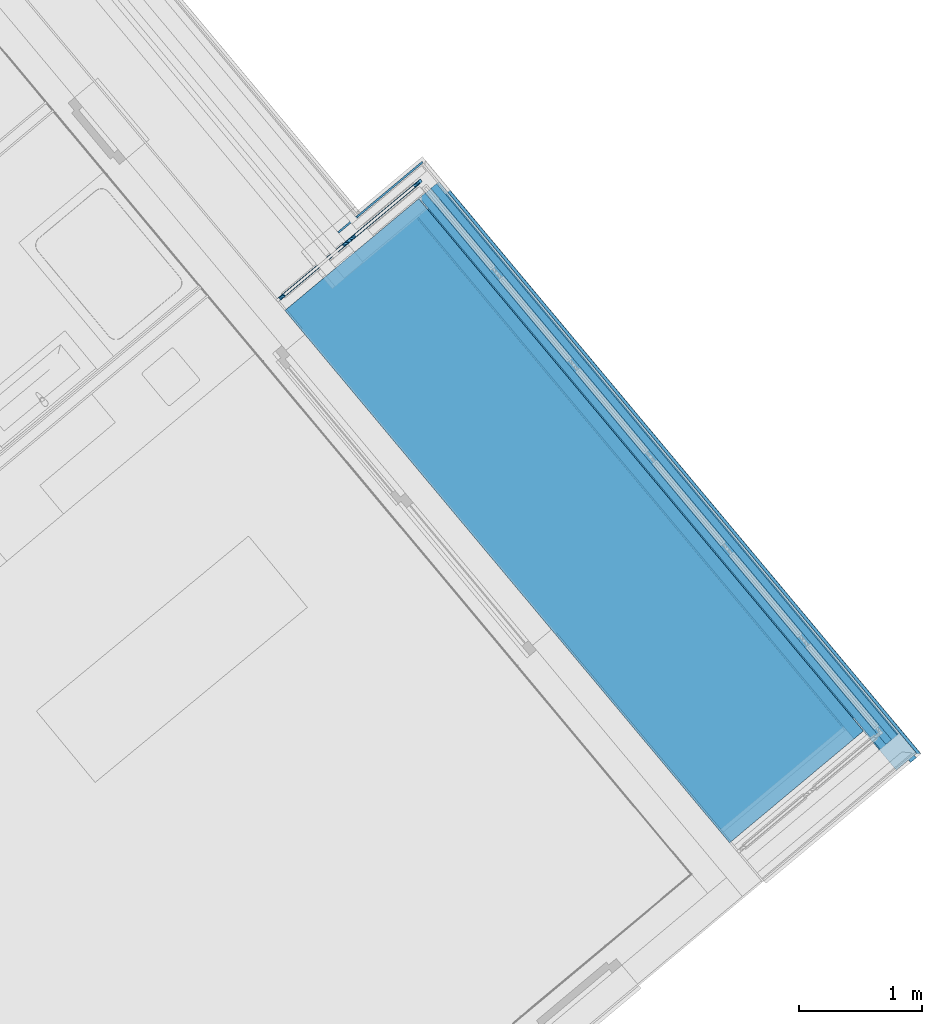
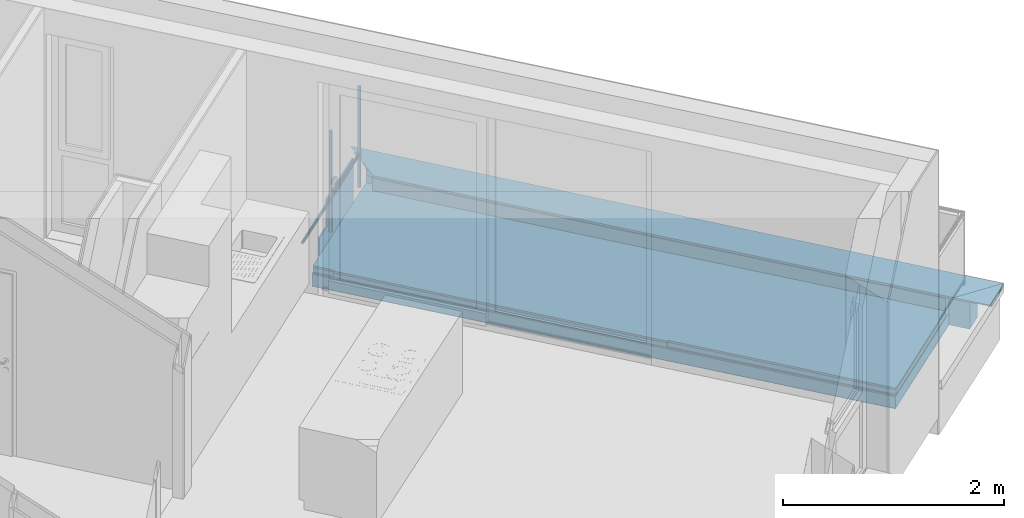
# One storey, part 38 of 58: 15 building element parts, 4 elements without a shape of their own.
"""IFC4 building model written with IfcOpenShell, lengths in metres."""

from ifc_helpers import new_model, entity, si_unit, converted_unit, derived_unit, direction, frame, origin_with_axes, place, context, subcontext, project, spatial, polygons, material, type_object, element, aggregate, save


model = new_model("IFC4")

# Units and contexts
model_context = context("Model", 3, precision=1e-05, world=origin_with_axes(), true_north=direction((0.0, 1.0)))
body_context = subcontext(model_context, "Body", "Model", "MODEL_VIEW")
ifc_project = project(units=[si_unit("LENGTHUNIT", "METRE"), si_unit("AREAUNIT", "SQUARE_METRE"), si_unit("VOLUMEUNIT", "CUBIC_METRE"), converted_unit("PLANEANGLEUNIT", "DEGREE", entity("IfcPlaneAngleMeasure", 0.0174532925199), si_unit("PLANEANGLEUNIT", "RADIAN"), dimensions=[0, 0, 0, 0, 0, 0, 0]), converted_unit("TIMEUNIT", "Year", entity("IfcTimeMeasure", 31556926.0), si_unit("TIMEUNIT", "SECOND"), dimensions=[0, 0, 1, 0, 0, 0, 0]), si_unit("MASSUNIT", "GRAM", prefix="KILO"), si_unit("THERMODYNAMICTEMPERATUREUNIT", "DEGREE_CELSIUS"), si_unit("LUMINOUSINTENSITYUNIT", "LUMEN"), si_unit("ENERGYUNIT", "JOULE", prefix="MEGA"), derived_unit("THERMALCONDUCTANCEUNIT", [(si_unit("POWERUNIT", "WATT"), 1), (si_unit("LENGTHUNIT", "METRE"), -1), (si_unit("THERMODYNAMICTEMPERATUREUNIT", "KELVIN"), -1)]), derived_unit("SPECIFICHEATCAPACITYUNIT", [(si_unit("ENERGYUNIT", "JOULE"), 1), (si_unit("MASSUNIT", "GRAM", prefix="KILO"), -1), (si_unit("THERMODYNAMICTEMPERATUREUNIT", "KELVIN"), -1)]), derived_unit("MASSDENSITYUNIT", [(si_unit("MASSUNIT", "GRAM", prefix="KILO"), 1), (si_unit("VOLUMEUNIT", "CUBIC_METRE"), -1)])], contexts=[model_context])

# Site, building, storey
site_placement = place(None, frame((-0.00153261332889, -0.00661245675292, 0.0), z_axis=(0.0, 0.0, 1.0), x_axis=(1.0, 0.0, 0.0)))
site = spatial("IfcSite", under=ifc_project, at=site_placement, Name="Site", CompositionType="ELEMENT")
building_placement = place(site_placement, origin_with_axes())
building = spatial("IfcBuilding", under=site, at=building_placement, Name="Building", CompositionType="ELEMENT")
storey_placement = place(building_placement, frame((0.0, 0.0, 5.7), z_axis=(0.0, 0.0, 1.0), x_axis=(1.0, 0.0, 0.0)))
storey = spatial("IfcBuildingStorey", under=building, at=storey_placement, Name="DG1", CompositionType="ELEMENT", Elevation=5.7)

# Wall, building element part
wall_type = type_object("IfcWallType", Name="Bauteil - Attika Balkon 356 x 610", PredefinedType="NOTDEFINED")
wall_1_placement = place(storey_placement, frame((10.0769189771, 25.3809042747, -0.2), z_axis=(0.0, 0.0, 1.0), x_axis=(0.767365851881, 0.641209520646, 0.0)))
wall_1 = element("IfcWall", 1, at=wall_1_placement, inside=storey, type_object=wall_type, Name="Wand-003", PredefinedType="NOTDEFINED")
ifc_material_1 = material(Name="Zementputz")
building_element_part_1_placement = place(wall_1_placement, origin_with_axes())
building_element_part_1 = element("IfcBuildingElementPart", 2, at=building_element_part_1_placement, material=ifc_material_1, Name="Zementputz", PredefinedType="NOTDEFINED", context=body_context, shape_type="Tessellation", body=[
    polygons([(0.19999996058, 0.214999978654, 0.499999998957), (0.19999996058, 0.199999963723, 0.499999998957), (0.89192992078, 0.199999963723, 0.499999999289), (0.89192998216, 0.214999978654, 0.499999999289), (0.19999996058, 0.199999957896, 0.498915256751), (0.19999996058, 0.214999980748, 0.498915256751), (0.19999996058, 0.199999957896, 0.498822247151), (0.19999996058, 0.199999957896, 0.496604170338), (0.19999996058, 0.199999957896, 0.49100648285), (0.19999996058, 0.199999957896, 0.488695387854), (0.19999996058, 0.199999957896, 0.335), (0.19999996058, 0.199999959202, 0.2), (0.89192992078, 0.199999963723, 0.200000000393), (0.891929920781, 0.199999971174, 0.0), (0.89192998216, 0.214999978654, 0.0), (0.0, 0.214999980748, 0.0), (2.39911202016e-10, 0.214999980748, 0.2), (0.19999996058, 0.214999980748, 0.2), (0.19999996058, 0.214999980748, 0.335), (0.19999996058, 0.214999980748, 0.488695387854), (0.19999996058, 0.214999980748, 0.49100648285), (0.19999996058, 0.214999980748, 0.496604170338), (0.19999996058, 0.214999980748, 0.498822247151), (2.39907649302e-10, 0.199999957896, 0.2), (0.0, 0.199999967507, 0.0)], [[[1, 2, 3, 4]], [[5, 2, 1, 6]], [[2, 5, 7, 8, 9, 10, 11, 12, 13, 3]], [[4, 3, 13, 14, 15]], [[6, 1, 4, 15, 16, 17, 18, 19, 20, 21, 22, 23]], [[5, 6, 23, 7]], [[7, 23, 22, 8]], [[8, 22, 21, 9]], [[9, 21, 20, 10]], [[10, 20, 19, 11]], [[11, 19, 18, 12]], [[12, 24, 25, 14, 13]], [[14, 25, 16, 15]], [[24, 17, 16, 25]], [[24, 12, 18, 17]]], closed=True),
])
aggregate(wall_1, [building_element_part_1])

# Wall, building element parts
wall_2_placement = place(storey_placement, frame((10.5963712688, 25.814957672, -0.2), z_axis=(0.0, 0.0, 1.0), x_axis=(0.641206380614, -0.767368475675, 0.0)))
wall_2 = element("IfcWall", 3, at=wall_2_placement, inside=storey, type_object=wall_type, Name="Wand-004", PredefinedType="NOTDEFINED")
ifc_material_2 = material(Name="Vollholz")
building_element_part_2_placement = place(wall_2_placement, origin_with_axes())
building_element_part_2 = element("IfcBuildingElementPart", 4, at=building_element_part_2_placement, material=ifc_material_2, Name="Vollholz", PredefinedType="NOTDEFINED", context=body_context, shape_type="Tessellation", body=[
    polygons([(6.01965327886, 0.189984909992, 0.586106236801), (6.01966449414, 0.189996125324, 0.584015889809), (6.01967573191, 0.190007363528, 0.581921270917), (6.06981943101, 0.190007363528, 0.581921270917), (6.07116862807, 0.190007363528, 0.581921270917), (6.07116862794, 0.190039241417, 0.575979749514), (6.06981904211, 0.190039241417, 0.575979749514), (6.01970760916, 0.190039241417, 0.575979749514), (6.01970977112, 0.190041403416, 0.575576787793), (6.01971887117, 0.190050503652, 0.573880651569), (6.01975070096, 0.190082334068, 0.567947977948), (6.01979334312, 0.190124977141, 0.560000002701), (-0.130125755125, 0.190124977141, 0.560000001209), (-0.130125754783, 0.190041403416, 0.575576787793), (-0.130125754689, 0.190018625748, 0.57982217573), (-0.130125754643, 0.190007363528, 0.581921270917), (-0.130125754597, 0.189996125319, 0.584015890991), (-0.18998568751, 0.189984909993, 0.586106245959), (6.01966473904, 0.130124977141, 0.584015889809), (6.01967597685, 0.130124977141, 0.581921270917), (6.06981967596, 0.130124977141, 0.581921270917), (6.07116887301, 0.130124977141, 0.581921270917), (6.07116887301, 0.130124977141, 0.575979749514), (6.06981928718, 0.130124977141, 0.575979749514), (6.01970785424, 0.130124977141, 0.575979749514), (6.0197100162, 0.130124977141, 0.575576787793), (6.01971911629, 0.130124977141, 0.573880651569), (6.01975094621, 0.130124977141, 0.567947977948), (6.01979358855, 0.130124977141, 0.560000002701), (-0.130125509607, 0.130124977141, 0.560000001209), (-0.130125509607, 0.130124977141, 0.575576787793), (-0.130125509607, 0.130124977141, 0.57982217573), (-0.130125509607, 0.130124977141, 0.581921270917), (-0.130125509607, 0.130124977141, 0.584015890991)], [[[1, 2, 3, 4, 5, 6, 7, 8, 9, 10, 11, 12, 13, 14, 15, 16, 17, 18]], [[19, 2, 1]], [[2, 19, 20, 3]], [[20, 21, 4, 3]], [[5, 4, 21, 22]], [[23, 6, 5, 22]], [[23, 24, 7, 6]], [[25, 8, 7, 24]], [[26, 9, 8, 25]], [[10, 9, 26, 27]], [[28, 11, 10, 27]], [[11, 28, 29, 12]], [[30, 13, 12, 29]], [[14, 13, 30, 31]], [[14, 31, 32, 15]], [[16, 15, 32, 33]], [[16, 33, 34, 17]], [[17, 34, 18]], [[19, 1, 18, 34]], [[25, 24, 23, 22, 21, 20, 19, 34, 33, 32, 31, 30, 29, 28, 27, 26]]], closed=True),
])
ifc_material_3 = material(Name="Brettschichtholz")
building_element_part_3_placement = place(wall_2_placement, origin_with_axes())
building_element_part_3 = element("IfcBuildingElementPart", 5, at=building_element_part_3_placement, material=ifc_material_3, Name="Brettschichtholz", PredefinedType="NOTDEFINED", context=body_context, shape_type="Tessellation", body=[
    polygons([(6.04466834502, 0.190124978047, 0.560000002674), (6.04466824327, 0.214999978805, 0.560000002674), (-8.79832345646e-07, 0.214999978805, 0.560000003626), (-7.78044960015e-07, 0.190124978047, 0.560000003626), (6.04466824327, 0.214999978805, 0.519273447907), (6.04466859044, 0.130124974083, 0.560000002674), (6.0446688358, 0.0701429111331, 0.560000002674), (6.04466908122, 0.010142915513, 0.560000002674), (6.04466912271, 0.0, 0.560000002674), (6.04466912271, 0.0, 0.519273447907), (6.04466824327, 0.214999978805, 0.519224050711), (6.04466824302, 0.214999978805, 0.511410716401), (6.04466824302, 0.214999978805, 0.51136132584), (6.04466824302, 0.214999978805, 0.509099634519), (6.04466824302, 0.214999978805, 0.509050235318), (6.04466824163, 0.214999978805, 0.50000001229), (-8.79832347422e-07, 0.214999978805, 0.499999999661), (-8.79832347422e-07, 0.214999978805, 0.506731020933), (-8.79832347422e-07, 0.214999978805, 0.509099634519), (-8.79832347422e-07, 0.214999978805, 0.511410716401), (-8.79832347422e-07, 0.214999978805, 0.519273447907), (0.0, 0.0, 0.519273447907), (0.0, 0.0, 0.560000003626), (-4.15664587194e-08, 0.010142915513, 0.560000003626), (-2.87083741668e-07, 0.0701429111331, 0.560000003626), (-5.32527650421e-07, 0.130124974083, 0.560000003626), (0.0, 0.0, 0.511410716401), (0.0, 0.0, 0.509099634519), (0.0, 0.0, 0.506731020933), (0.0, 0.0, 0.499999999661), (6.04466912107, 0.0, 0.50000001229), (6.04466912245, 0.0, 0.509050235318), (6.04466912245, 0.0, 0.509099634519), (6.04466912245, 0.0, 0.51136132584), (6.04466912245, 0.0, 0.511410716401), (6.04466912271, 0.0, 0.519224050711)], [[[1, 2, 3, 4]], [[5, 2, 1, 6, 7, 8, 9, 10]], [[2, 5, 11, 12, 13, 14, 15, 16, 17, 18, 19, 20, 21, 3]], [[4, 3, 21, 22, 23, 24, 25, 26]], [[6, 1, 4, 26]], [[7, 6, 26, 25]], [[8, 7, 25, 24]], [[9, 8, 24, 23]], [[10, 9, 23, 22, 27, 28, 29, 30, 31, 32, 33, 34, 35, 36]], [[5, 10, 36, 11]], [[11, 36, 35, 12]], [[12, 35, 34, 13]], [[13, 34, 33, 14]], [[14, 33, 32, 15]], [[15, 32, 31, 16]], [[30, 17, 16, 31]], [[29, 18, 17, 30]], [[28, 19, 18, 29]], [[27, 20, 19, 28]], [[22, 21, 20, 27]]], closed=True),
])
ifc_material_4 = material(Name="Stahlbeton")
building_element_part_4_placement = place(wall_2_placement, origin_with_axes())
building_element_part_4 = element("IfcBuildingElementPart", 6, at=building_element_part_4_placement, material=ifc_material_4, Name="Stahlbeton", PredefinedType="NOTDEFINED", context=body_context, shape_type="Tessellation", body=[
    polygons([(5.82966915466, 1.0529745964e-09, 0.500000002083), (5.82966833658, 0.19999996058, 0.500000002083), (-8.19443810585e-07, 0.19999996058, 0.500000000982), (-1.0529745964e-09, 1.0529745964e-09, 0.500000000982), (5.82966833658, 0.19999996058, 0.498915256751), (5.82966915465, 1.0529745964e-09, 0.498915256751), (5.82966833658, 0.19999996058, 0.498822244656), (5.82966833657, 0.19999996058, 0.496604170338), (5.82966833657, 0.19999996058, 0.491006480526), (5.82966833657, 0.19999996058, 0.488695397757), (5.82966833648, 0.19999996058, 0.335), (5.82966833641, 0.19999996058, 0.200000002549), (-8.19443808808e-07, 0.19999996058, 0.2), (-8.19443812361e-07, 0.19999996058, 0.334999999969), (-8.19443812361e-07, 0.19999996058, 0.496604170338), (-8.19443812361e-07, 0.19999996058, 0.498915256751), (-1.0529745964e-09, 1.0529745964e-09, 0.498915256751), (-1.0529745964e-09, 1.0529745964e-09, 0.496604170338), (-1.0529745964e-09, 1.0529745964e-09, 0.334999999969), (5.82966915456, 1.0529745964e-09, 0.335), (5.82966915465, 1.0529745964e-09, 0.488695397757), (5.82966915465, 1.0529745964e-09, 0.491006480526), (5.82966915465, 1.0529745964e-09, 0.496604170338), (5.82966915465, 1.0529745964e-09, 0.498822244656), (5.82966915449, 1.0529745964e-09, 0.200000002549), (-1.0529745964e-09, 1.0529745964e-09, 0.2)], [[[1, 2, 3, 4]], [[5, 2, 1, 6]], [[2, 5, 7, 8, 9, 10, 11, 12, 13, 14, 15, 16, 3]], [[4, 3, 16, 17]], [[6, 1, 4, 17, 18, 19, 20, 21, 22, 23, 24]], [[5, 6, 24, 7]], [[7, 24, 23, 8]], [[8, 23, 22, 9]], [[9, 22, 21, 10]], [[10, 21, 20, 11]], [[11, 20, 25, 12]], [[12, 25, 26, 13]], [[19, 14, 13, 26]], [[18, 15, 14, 19]], [[17, 16, 15, 18]], [[25, 20, 19, 26]]], closed=True),
])
building_element_part_5_placement = place(wall_2_placement, origin_with_axes())
building_element_part_5 = element("IfcBuildingElementPart", 7, at=building_element_part_5_placement, material=ifc_material_2, Name="Vollholz", PredefinedType="NOTDEFINED", context=body_context, shape_type="Tessellation", body=[
    polygons([(6.01968773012, 0.0100326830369, 0.57982217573), (6.0196762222, 0.0701429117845, 0.581921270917), (-0.0701431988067, 0.0701429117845, 0.581921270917), (-0.0100327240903, 0.010032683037, 0.579822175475), (6.01968748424, 0.0701429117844, 0.57982217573), (6.01970809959, 0.0701429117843, 0.575979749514), (5.95979383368, 0.0701429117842, 0.575979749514), (5.72966885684, 0.0701429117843, 0.575979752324), (5.72966885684, 0.0701429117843, 0.575576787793), (5.72966885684, 0.0701429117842, 0.573880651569), (5.72966885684, 0.0701429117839, 0.567947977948), (5.72966885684, 0.0701429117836, 0.560000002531), (-0.0101431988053, 0.0701429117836, 0.560000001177), (-0.0100565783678, 0.0701429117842, 0.575576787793), (-0.0100329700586, 0.0701429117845, 0.579822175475), (6.01970834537, 0.0100540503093, 0.575979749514), (-0.0100563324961, 0.0100562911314, 0.575576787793), (-0.010142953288, 0.0101429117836, 0.560000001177), (5.72966910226, 0.0101429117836, 0.560000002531), (5.72966910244, 0.0100987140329, 0.567947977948), (5.72966910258, 0.0100657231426, 0.573880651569), (5.72966910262, 0.0100562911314, 0.575576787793), (5.72966910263, 0.0100540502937, 0.575979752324), (5.95979407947, 0.0100540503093, 0.575979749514)], [[[1, 2, 3, 4]], [[5, 2, 1]], [[2, 5, 6, 7, 8, 9, 10, 11, 12, 13, 14, 15, 3]], [[3, 15, 4]], [[16, 1, 4, 17, 18, 19, 20, 21, 22, 23, 24]], [[5, 1, 16, 6]], [[6, 16, 24, 7]], [[8, 7, 24, 23]], [[9, 8, 23, 22]], [[9, 22, 21, 10]], [[10, 21, 20, 11]], [[11, 20, 19, 12]], [[12, 19, 18, 13]], [[17, 14, 13, 18]], [[4, 15, 14, 17]]], closed=True),
])
ifc_material_5 = material(Name="EPS 1")
building_element_part_6_placement = place(wall_2_placement, origin_with_axes())
building_element_part_6 = element("IfcBuildingElementPart", 8, at=building_element_part_6_placement, material=ifc_material_5, Name="EPS 1", PredefinedType="NOTDEFINED", context=body_context, shape_type="Tessellation", body=[
    polygons([(5.62966955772, -0.0999999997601, 0.560000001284), (5.62966914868, 2.39911202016e-10, 0.560000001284), (0.0999999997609, 2.39907649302e-10, 0.560000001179), (0.100000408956, -0.0999999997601, 0.560000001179), (5.62966915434, 2.39914754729e-10, 0.519273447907), (5.62966956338, -0.0999999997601, 0.519273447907), (5.62966915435, 2.39914754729e-10, 0.519224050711), (5.62966915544, 2.39911202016e-10, 0.511410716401), (5.62966915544, 2.39914754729e-10, 0.51136132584), (5.62966915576, 2.39907649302e-10, 0.509099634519), (5.62966915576, 2.39911202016e-10, 0.509050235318), (5.62966915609, 2.39907649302e-10, 0.506731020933), (5.62966915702, 2.39928965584e-10, 0.500000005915), (5.62966915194, 2.39911202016e-10, 0.498915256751), (5.62966915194, 2.39911202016e-10, 0.498822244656), (5.62966915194, 2.39911202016e-10, 0.496604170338), (5.62966915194, 2.39911202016e-10, 0.491006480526), (5.62966915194, 2.39911202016e-10, 0.488695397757), (5.62966915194, 2.39911202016e-10, 0.334999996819), (0.0999999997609, 2.39911202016e-10, 0.334999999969), (0.0999999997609, 2.39911202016e-10, 0.496604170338), (0.0999999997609, 2.39911202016e-10, 0.498915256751), (0.0999999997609, 2.39911202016e-10, 0.499999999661), (0.0999999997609, 2.39911202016e-10, 0.506731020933), (0.0999999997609, 2.39911202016e-10, 0.509099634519), (0.0999999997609, 2.39911202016e-10, 0.511410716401), (0.0999999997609, 2.39911202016e-10, 0.519273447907), (0.100000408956, -0.0999999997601, 0.519273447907), (0.100000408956, -0.0999999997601, 0.511410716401), (0.100000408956, -0.0999999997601, 0.509099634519), (0.100000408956, -0.0999999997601, 0.506731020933), (0.100000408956, -0.0999999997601, 0.499999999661), (0.100000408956, -0.0999999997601, 0.498915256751), (0.100000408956, -0.0999999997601, 0.496604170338), (0.100000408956, -0.0999999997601, 0.334999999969), (5.62966956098, -0.0999999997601, 0.334999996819), (5.62966956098, -0.0999999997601, 0.488695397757), (5.62966956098, -0.0999999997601, 0.491006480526), (5.62966956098, -0.0999999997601, 0.496604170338), (5.62966956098, -0.0999999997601, 0.498822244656), (5.62966956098, -0.0999999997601, 0.498915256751), (5.62966956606, -0.0999999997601, 0.500000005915), (5.62966956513, -0.0999999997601, 0.506731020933), (5.6296695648, -0.0999999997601, 0.509050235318), (5.6296695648, -0.0999999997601, 0.509099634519), (5.62966956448, -0.0999999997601, 0.51136132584), (5.62966956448, -0.0999999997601, 0.511410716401), (5.62966956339, -0.0999999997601, 0.519224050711)], [[[1, 2, 3, 4]], [[5, 2, 1, 6]], [[2, 5, 7, 8, 9, 10, 11, 12, 13, 14, 15, 16, 17, 18, 19, 20, 21, 22, 23, 24, 25, 26, 27, 3]], [[4, 3, 27, 28]], [[6, 1, 4, 28, 29, 30, 31, 32, 33, 34, 35, 36, 37, 38, 39, 40, 41, 42, 43, 44, 45, 46, 47, 48]], [[5, 6, 48, 7]], [[7, 48, 47, 8]], [[8, 47, 46, 9]], [[9, 46, 45, 10]], [[10, 45, 44, 11]], [[11, 44, 43, 12]], [[12, 43, 42, 13]], [[13, 42, 41, 14]], [[14, 41, 40, 15]], [[15, 40, 39, 16]], [[16, 39, 38, 17]], [[17, 38, 37, 18]], [[18, 37, 36, 19]], [[19, 36, 35, 20]], [[34, 21, 20, 35]], [[33, 22, 21, 34]], [[32, 23, 22, 33]], [[31, 24, 23, 32]], [[30, 25, 24, 31]], [[29, 26, 25, 30]], [[28, 27, 26, 29]]], closed=True),
])
ifc_material_6 = material(Name="Holzwerkstoff")
building_element_part_7_placement = place(wall_2_placement, origin_with_axes())
building_element_part_7 = element("IfcBuildingElementPart", 9, at=building_element_part_7_placement, material=ifc_material_6, Name="Holzwerkstoff", PredefinedType="NOTDEFINED", context=body_context, shape_type="Tessellation", body=[
    polygons([(0.111834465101, -0.11183400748, 0.584015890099), (0.111907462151, -0.111907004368, 0.586106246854), (0.111906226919, 0.189984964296, 0.586106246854), (0.111833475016, 0.130124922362, 0.584015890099), (0.111761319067, -0.111760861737, 0.581921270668), (0.111688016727, -0.111687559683, 0.579822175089), (0.111539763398, -0.111539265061, 0.575576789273), (5.71813030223, -0.111539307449, 0.575576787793), (5.72966960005, -0.111553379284, 0.575979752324), (5.83970228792, -0.111687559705, 0.57982217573), (5.89981250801, -0.111760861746, 0.581921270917), (5.95979458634, -0.111834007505, 0.584015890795), (6.0196545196, -0.111907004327, 0.586106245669), (6.06966959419, -0.111967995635, 0.587852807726), (6.06966663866, -0.111970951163, 0.587937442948), (6.06939045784, -0.112247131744, 0.595846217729), (0.112247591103, -0.112247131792, 0.5958462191), (0.112246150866, 0.239720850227, 0.5958462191), (0.111967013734, 0.23999998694, 0.587852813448), (6.0196532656, 0.189984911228, 0.586106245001), (5.95979359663, 0.130124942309, 0.584015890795), (0.111760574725, 0.0701429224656, 0.581921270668), (0.111687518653, 0.01003274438, 0.579822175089), (5.83970179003, 0.010032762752, 0.57982217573), (5.72966955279, -0.0999999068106, 0.575979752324), (5.89981174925, 0.0701429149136, 0.581921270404), (6.0696681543, 0.23999998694, 0.587852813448), (6.06966519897, 0.239997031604, 0.587937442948), (6.06938901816, 0.239720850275, 0.595846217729), (-0.239277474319, 0.239276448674, 0.608570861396), (6.06894466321, 0.23927649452, 0.608570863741)], [[[1, 2, 3, 4]], [[5, 6, 7, 8, 9, 10, 11, 12, 13, 14, 15, 16, 17, 2, 1]], [[2, 17, 18, 19, 3]], [[4, 3, 20, 21]], [[5, 1, 4, 22]], [[6, 5, 22, 23]], [[7, 6, 23]], [[7, 23, 24, 25, 8]], [[9, 8, 25]], [[10, 9, 25, 24]], [[11, 10, 24, 26]], [[12, 11, 26, 21]], [[13, 12, 21, 20]], [[14, 13, 20, 27]], [[14, 27, 28, 15]], [[16, 15, 28, 29]], [[30, 17, 16, 31]], [[18, 17, 30]], [[19, 18, 30, 31, 29, 28, 27]], [[3, 19, 27, 20]], [[22, 4, 21, 26]], [[23, 22, 26, 24]], [[16, 29, 31]]], closed=True),
])
aggregate(wall_2, [building_element_part_2, building_element_part_3, building_element_part_4, building_element_part_5, building_element_part_6, building_element_part_7])

# Covering, building element parts
covering_type = type_object("IfcCoveringType", Name="Balkon vor Terrasse 220", PredefinedType="NOTDEFINED")
covering_placement = place(storey_placement, frame((13.1202359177, 20.5875383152, 0.0), z_axis=(0.0, 0.0, 1.0), x_axis=(1.0, 0.0, 0.0)))
covering = element("IfcCovering", 10, at=covering_placement, inside=storey, type_object=covering_type, Name="Decke-005", PredefinedType="NOTDEFINED")
ifc_material_7 = material(Name="Platten")
building_element_part_8_placement = place(covering_placement, origin_with_axes())
building_element_part_8 = element("IfcBuildingElementPart", 11, at=building_element_part_8_placement, material=ifc_material_7, Name="Platten", PredefinedType="NOTDEFINED", context=body_context, shape_type="Tessellation", body=[
    polygons([(-1.41438565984, 1.69266242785, 0.22), (-1.40287517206, 1.70228057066, 0.22), (0.0115104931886, 0.00961814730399, 0.22), (1.08591513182, 0.907388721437, 0.22), (-2.52386452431, 5.22741920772, 0.22), (-3.59828683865, 4.32963386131, 0.22), (-3.46756982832, 4.1731986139, 0.22), (-3.4790803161, 4.16358047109, 0.22), (-1.41438565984, 1.69266242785, 0.2), (-1.40287517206, 1.70228057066, 0.2), (0.0115104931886, 0.00961814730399, 0.2), (1.08591513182, 0.907388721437, 0.2), (-2.52386452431, 5.22741920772, 0.2), (-3.59828683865, 4.32963386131, 0.2), (-3.46756982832, 4.1731986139, 0.2), (-3.4790803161, 4.16358047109, 0.2)], [[[1, 2, 3, 4, 5, 6, 7, 8]], [[2, 1, 9, 10]], [[11, 3, 2, 10]], [[3, 11, 12, 4]], [[12, 13, 5, 4]], [[14, 6, 5, 13]], [[7, 6, 14, 15]], [[8, 7, 15, 16]], [[9, 1, 8, 16]], [[10, 9, 16, 15, 14, 13, 12, 11]]], closed=True),
])
ifc_material_8 = material(Name="Luftschicht horizontal")
building_element_part_9_placement = place(covering_placement, origin_with_axes())
building_element_part_9 = element("IfcBuildingElementPart", 12, at=building_element_part_9_placement, material=ifc_material_8, Name="Luftschicht horizontal", PredefinedType="NOTDEFINED", context=body_context, shape_type="Tessellation", body=[
    polygons([(-1.41438565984, 1.69266242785, 0.2), (-1.40287517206, 1.70228057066, 0.2), (0.0115104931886, 0.00961814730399, 0.2), (1.08591513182, 0.907388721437, 0.2), (-2.52386452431, 5.22741920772, 0.2), (-3.59828683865, 4.32963386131, 0.2), (-3.46756982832, 4.1731986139, 0.2), (-3.4790803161, 4.16358047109, 0.2), (-1.41438565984, 1.69266242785, 0.15), (-1.40287517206, 1.70228057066, 0.15), (0.0115104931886, 0.00961814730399, 0.15), (1.08591513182, 0.907388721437, 0.15), (-2.52386452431, 5.22741920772, 0.15), (-3.59828683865, 4.32963386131, 0.15), (-3.46756982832, 4.1731986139, 0.15), (-3.4790803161, 4.16358047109, 0.15)], [[[1, 2, 3, 4, 5, 6, 7, 8]], [[2, 1, 9, 10]], [[11, 3, 2, 10]], [[3, 11, 12, 4]], [[12, 13, 5, 4]], [[14, 6, 5, 13]], [[7, 6, 14, 15]], [[8, 7, 15, 16]], [[9, 1, 8, 16]], [[10, 9, 16, 15, 14, 13, 12, 11]]], closed=True),
])
ifc_material_9 = material(Name="Sperrschicht")
building_element_part_10_placement = place(covering_placement, origin_with_axes())
building_element_part_10 = element("IfcBuildingElementPart", 13, at=building_element_part_10_placement, material=ifc_material_9, Name="Sperrschicht", PredefinedType="NOTDEFINED", context=body_context, shape_type="Tessellation", body=[
    polygons([(1.08591513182, 0.907388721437, 0.135), (1.08591513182, 0.907388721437, 0.15), (0.0, 0.0, 0.15), (0.0, 0.0, 0.135), (-2.52386452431, 5.22741920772, 0.135), (-2.52386452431, 5.22741920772, 0.15), (-3.60979731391, 4.32001572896, 0.15), (-3.60979731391, 4.32001572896, 0.135)], [[[1, 2, 3, 4]], [[5, 6, 2, 1]], [[3, 2, 6, 7]], [[4, 3, 7, 8]], [[4, 8, 5, 1]], [[8, 7, 6, 5]]], closed=True),
])
ifc_material_10 = material(Name="XPS")
building_element_part_11_placement = place(covering_placement, origin_with_axes())
building_element_part_11 = element("IfcBuildingElementPart", 14, at=building_element_part_11_placement, material=ifc_material_10, Name="XPS", PredefinedType="NOTDEFINED", context=body_context, shape_type="Tessellation", body=[
    polygons([(1.08591513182, 0.907388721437, 0.005), (1.08591513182, 0.907388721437, 0.135), (0.0, 0.0, 0.135), (0.0, 0.0, 0.005), (-2.52386452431, 5.22741920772, 0.005), (-2.52386452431, 5.22741920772, 0.135), (-3.60979731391, 4.32001572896, 0.135), (-3.60979731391, 4.32001572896, 0.005)], [[[1, 2, 3, 4]], [[5, 6, 2, 1]], [[3, 2, 6, 7]], [[4, 3, 7, 8]], [[4, 8, 5, 1]], [[8, 7, 6, 5]]], closed=True),
])
building_element_part_12_placement = place(covering_placement, origin_with_axes())
building_element_part_12 = element("IfcBuildingElementPart", 15, at=building_element_part_12_placement, material=ifc_material_9, Name="Sperrschicht", PredefinedType="NOTDEFINED", context=body_context, shape_type="Tessellation", body=[
    polygons([(0.0, 0.0, 0.0), (1.08591513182, 0.907388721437, 0.0), (1.08591513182, 0.907388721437, 0.005), (0.0, 0.0, 0.005), (-3.60979731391, 4.32001572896, 0.0), (-2.52386452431, 5.22741920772, 0.0), (-2.52386452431, 5.22741920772, 0.005), (-3.60979731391, 4.32001572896, 0.005)], [[[1, 2, 3, 4]], [[1, 5, 6, 2]], [[2, 6, 7, 3]], [[4, 3, 7, 8]], [[5, 1, 4, 8]], [[6, 5, 8, 7]]], closed=True),
])
aggregate(covering, [building_element_part_8, building_element_part_9, building_element_part_10, building_element_part_11, building_element_part_12])

# Railing, building element parts
railing_type = type_object("IfcRailingType", Name="Geländerart", PredefinedType="NOTDEFINED")
railing_placement = place(storey_placement, frame((13.1317464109, 20.5971564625, 0.38), z_axis=(0.0, 0.0, 1.0), x_axis=(1.0, 0.0, 0.0)))
railing = element("IfcRailing", 16, at=railing_placement, inside=storey, type_object=railing_type, Name="Geländer - 001", PredefinedType="NOTDEFINED")
ifc_material_11 = material(Name="Aluminium")
building_element_part_13_placement = place(railing_placement, origin_with_axes())
building_element_part_13 = element("IfcBuildingElementPart", 17, at=building_element_part_13_placement, material=ifc_material_11, Name="Aluminium", PredefinedType="NOTDEFINED", context=body_context, shape_type="Tessellation", body=[
    polygons([(-2.52117486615, 5.37627017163, -0.3), (-2.54036116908, 5.36024251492, -0.3), (-2.54036116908, 5.36024251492, 0.82), (-2.52117486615, 5.37627017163, 0.82), (-2.50514720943, 5.3570838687, -0.3), (-2.52433351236, 5.34105621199, -0.3), (-2.52433351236, 5.34105621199, 0.82), (-2.50514720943, 5.3570838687, 0.82)], [[[1, 2, 3, 4]], [[1, 5, 6, 2]], [[2, 6, 7, 3]], [[4, 3, 7, 8]], [[5, 1, 4, 8]], [[6, 5, 8, 7]]], closed=True),
])
building_element_part_14_placement = place(railing_placement, origin_with_axes())
building_element_part_14 = element("IfcBuildingElementPart", 18, at=building_element_part_14_placement, material=ifc_material_11, Name="Aluminium", PredefinedType="NOTDEFINED", context=body_context, shape_type="Tessellation", body=[
    polygons([(-2.52464808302, 5.33753326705, 0.07), (-2.52461931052, 5.33785427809, 0.072604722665), (-3.66444639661, 4.38541682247, 0.072604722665), (-3.66430027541, 4.38524195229, 0.07), (-2.52461931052, 5.33785427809, 0.067395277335), (-2.52453386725, 5.33880755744, 0.0648696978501), (-2.52439434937, 5.34036414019, 0.0625), (-2.52420499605, 5.34247673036, 0.0603581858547), (-2.5239715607, 5.34508113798, 0.0585093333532), (-2.52370113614, 5.34809822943, 0.0570096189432), (-2.52340193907, 5.35143633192, 0.0559046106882), (-2.52308306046, 5.35499401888, 0.0552278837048), (-2.52275418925, 5.35866319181, 0.055), (-2.52242531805, 5.36233236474, 0.0552278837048), (-2.52210643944, 5.36589005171, 0.0559046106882), (-2.52180724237, 5.36922815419, 0.0570096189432), (-2.52153681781, 5.37224524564, 0.0585093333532), (-2.52130338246, 5.37484965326, 0.0603581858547), (-2.52111402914, 5.37696224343, 0.0625), (-2.52097451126, 5.37851882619, 0.0648696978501), (-2.52088906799, 5.37947210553, 0.067395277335), (-2.52086029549, 5.37979311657, 0.07), (-2.52088906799, 5.37947210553, 0.072604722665), (-2.52097451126, 5.37851882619, 0.0751303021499), (-2.52111402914, 5.37696224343, 0.0775), (-2.52130338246, 5.37484965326, 0.0796418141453), (-2.52153681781, 5.37224524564, 0.0814906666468), (-2.52180724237, 5.36922815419, 0.0829903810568), (-2.52210643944, 5.36589005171, 0.0840953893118), (-2.52242531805, 5.36233236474, 0.0847721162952), (-2.52275418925, 5.35866319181, 0.085), (-2.52308306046, 5.35499401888, 0.0847721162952), (-2.52340193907, 5.35143633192, 0.0840953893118), (-2.52370113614, 5.34809822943, 0.0829903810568), (-2.5239715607, 5.34508113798, 0.0814906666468), (-2.52420499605, 5.34247673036, 0.0796418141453), (-2.52439434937, 5.34036414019, 0.0775), (-2.52453386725, 5.33880755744, 0.0751303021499), (-3.6648803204, 4.38593611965, 0.0751303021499), (-3.66558886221, 4.38678406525, 0.0775), (-3.66655049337, 4.38793489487, 0.0796418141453), (-3.6677359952, 4.38935364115, 0.0814906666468), (-3.66910934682, 4.39099719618, 0.0829903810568), (-3.67062881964, 4.39281562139, 0.0840953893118), (-3.67224824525, 4.39475366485, 0.0847721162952), (-3.67391841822, 4.39675244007, 0.085), (-3.67558859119, 4.3987512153, 0.0847721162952), (-3.6772080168, 4.40068925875, 0.0840953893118), (-3.67872748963, 4.40250768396, 0.0829903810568), (-3.68010084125, 4.404151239, 0.0814906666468), (-3.68128634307, 4.40556998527, 0.0796418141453), (-3.68224797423, 4.4067208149, 0.0775), (-3.68295651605, 4.4075687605, 0.0751303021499), (-3.68339043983, 4.40808805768, 0.072604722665), (-3.68353656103, 4.40826292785, 0.07), (-3.68339043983, 4.40808805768, 0.067395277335), (-3.68295651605, 4.4075687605, 0.0648696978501), (-3.68224797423, 4.4067208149, 0.0625), (-3.68128634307, 4.40556998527, 0.0603581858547), (-3.68010084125, 4.404151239, 0.0585093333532), (-3.67872748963, 4.40250768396, 0.0570096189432), (-3.6772080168, 4.40068925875, 0.0559046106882), (-3.67558859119, 4.3987512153, 0.0552278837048), (-3.67391841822, 4.39675244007, 0.055), (-3.67224824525, 4.39475366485, 0.0552278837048), (-3.67062881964, 4.39281562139, 0.0559046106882), (-3.66910934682, 4.39099719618, 0.0570096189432), (-3.6677359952, 4.38935364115, 0.0585093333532), (-3.66655049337, 4.38793489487, 0.0603581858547), (-3.66558886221, 4.38678406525, 0.0625), (-3.6648803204, 4.38593611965, 0.0648696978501), (-3.66444639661, 4.38541682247, 0.067395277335)], [[[1, 2, 3, 4]], [[1, 5, 6, 7, 8, 9, 10, 11, 12, 13, 14, 15, 16, 17, 18, 19, 20, 21, 22, 23, 24, 25, 26, 27, 28, 29, 30, 31, 32, 33, 34, 35, 36, 37, 38, 2]], [[2, 38, 39, 3]], [[4, 3, 39, 40, 41, 42, 43, 44, 45, 46, 47, 48, 49, 50, 51, 52, 53, 54, 55, 56, 57, 58, 59, 60, 61, 62, 63, 64, 65, 66, 67, 68, 69, 70, 71, 72]], [[5, 1, 4, 72]], [[6, 5, 72, 71]], [[7, 6, 71, 70]], [[8, 7, 70, 69]], [[9, 8, 69, 68]], [[10, 9, 68, 67]], [[11, 10, 67, 66]], [[12, 11, 66, 65]], [[13, 12, 65, 64]], [[14, 13, 64, 63]], [[15, 14, 63, 62]], [[16, 15, 62, 61]], [[17, 16, 61, 60]], [[18, 17, 60, 59]], [[19, 18, 59, 58]], [[20, 19, 58, 57]], [[21, 20, 57, 56]], [[22, 21, 56, 55]], [[23, 22, 55, 54]], [[24, 23, 54, 53]], [[25, 24, 53, 52]], [[26, 25, 52, 51]], [[27, 26, 51, 50]], [[28, 27, 50, 49]], [[29, 28, 49, 48]], [[30, 29, 48, 47]], [[31, 30, 47, 46]], [[32, 31, 46, 45]], [[33, 32, 45, 44]], [[34, 33, 44, 43]], [[35, 34, 43, 42]], [[36, 35, 42, 41]], [[37, 36, 41, 40]], [[38, 37, 40, 39]]], closed=True),
])
building_element_part_15_placement = place(railing_placement, origin_with_axes())
building_element_part_15 = element("IfcBuildingElementPart", 19, at=building_element_part_15_placement, material=ifc_material_11, Name="Aluminium", PredefinedType="NOTDEFINED", context=body_context, shape_type="Tessellation", body=[
    polygons([(-3.11594349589, 4.87928477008, -0.3), (-3.09991325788, 4.86010062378, -0.3), (-3.09991325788, 4.86010062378, 0.82), (-3.11594349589, 4.87928477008, 0.82), (-3.0967593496, 4.8953150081, -0.3), (-3.08072911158, 4.8761308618, -0.3), (-3.08072911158, 4.8761308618, 0.82), (-3.0967593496, 4.8953150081, 0.82)], [[[1, 2, 3, 4]], [[1, 5, 6, 2]], [[2, 6, 7, 3]], [[4, 3, 7, 8]], [[5, 1, 4, 8]], [[6, 5, 8, 7]]], closed=True),
])
aggregate(railing, [building_element_part_13, building_element_part_14, building_element_part_15])

save(model, "model.ifc")
